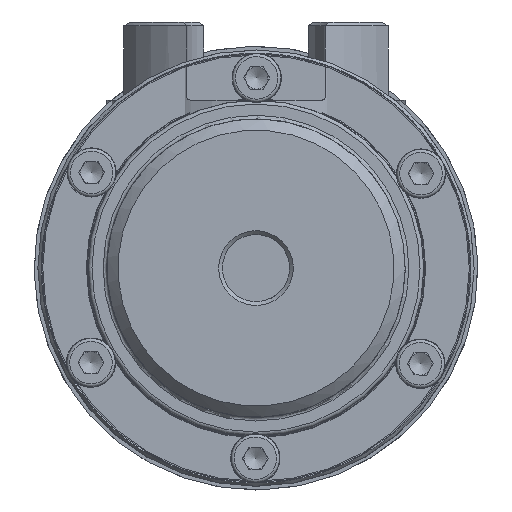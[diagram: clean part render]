
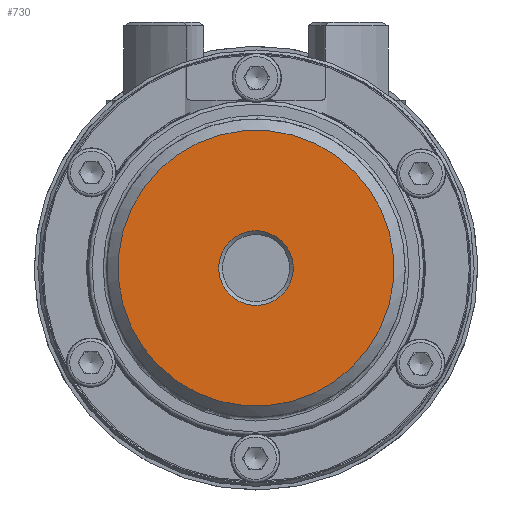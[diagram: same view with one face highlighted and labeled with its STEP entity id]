
A CAD part, left-side view. The second image highlights one B-rep face of the part: STEP entity #730.
In plain terms, the highlighted planar face has unit normal (-1, 0, 0) as drawn and (0, 0, -1) by its records, which use the part's own axes.
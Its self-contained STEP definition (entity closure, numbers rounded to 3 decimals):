
#730 = ADVANCED_FACE( '', ( #1499, #1500 ), #1501, .T. );
#1499 = FACE_OUTER_BOUND( '', #2422, .T. );
#1500 = FACE_BOUND( '', #2423, .T. );
#1501 = PLANE( '', #2424 );
#2422 = EDGE_LOOP( '', ( #4165 ) );
#2423 = EDGE_LOOP( '', ( #4166 ) );
#2424 = AXIS2_PLACEMENT_3D( '', #4167, #4168, #4169 );
#4165 = ORIENTED_EDGE( '', *, *, #5682, .T. );
#4166 = ORIENTED_EDGE( '', *, *, #5683, .T. );
#4167 = CARTESIAN_POINT( '', ( 0., 0., 0. ) );
#4168 = DIRECTION( '', ( 0., 0., -1. ) );
#4169 = DIRECTION( '', ( 0., -1., 0. ) );
#5682 = EDGE_CURVE( '', #6685, #6685, #6686, .T. );
#5683 = EDGE_CURVE( '', #6687, #6687, #6688, .F. );
#6685 = VERTEX_POINT( '', #8619 );
#6686 = CIRCLE( '', #8620, 37. );
#6687 = VERTEX_POINT( '', #8621 );
#6688 = CIRCLE( '', #8622, 10. );
#8619 = CARTESIAN_POINT( '', ( -37., 0., 0. ) );
#8620 = AXIS2_PLACEMENT_3D( '', #10169, #10170, #10171 );
#8621 = CARTESIAN_POINT( '', ( -10., 0., 0. ) );
#8622 = AXIS2_PLACEMENT_3D( '', #10172, #10173, #10174 );
#10169 = CARTESIAN_POINT( '', ( 0., 0., 0. ) );
#10170 = DIRECTION( '', ( 0., 0., -1. ) );
#10171 = DIRECTION( '', ( -1., 0., 0. ) );
#10172 = CARTESIAN_POINT( '', ( 0., 0., 0. ) );
#10173 = DIRECTION( '', ( 0., 0., -1. ) );
#10174 = DIRECTION( '', ( -1., 0., 0. ) );
